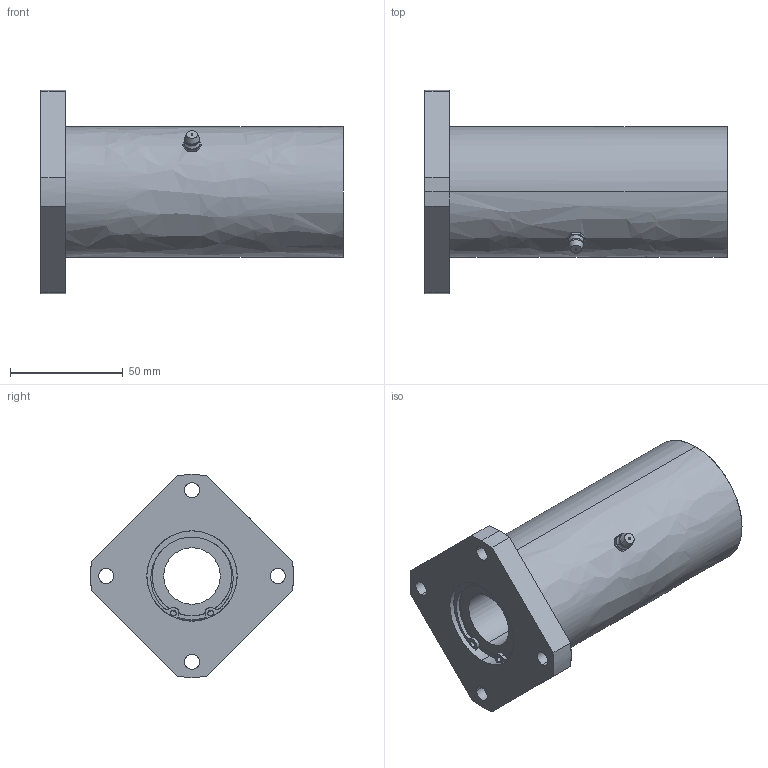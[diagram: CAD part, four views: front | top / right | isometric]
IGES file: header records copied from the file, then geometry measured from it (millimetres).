
Global section: file name: No Iges File Name specified; native system: AutoDesk Inventor R10; preprocessor: AutoDesk Inventor Iges Exporter R10; author: No Author specified; organization: No Organization specified; date: 20101214.140204; units: millimetre
Bounding box: 134 x 89.99 x 90 mm (x, y, z)
Surface area: 52787.6 mm2 (no closed solid volume)
Topology: 0 solids, 0 shells, 155 faces, 1099 edges, 1097 vertices
Faces by surface type: bspline 155
